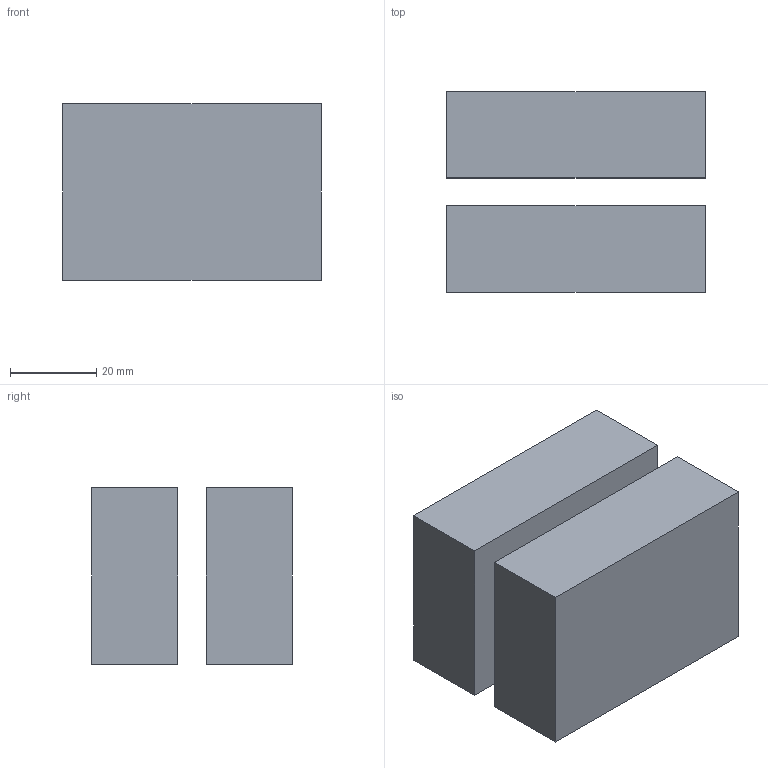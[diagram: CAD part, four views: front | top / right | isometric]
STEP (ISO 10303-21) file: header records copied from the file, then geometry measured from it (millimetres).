
FILE_DESCRIPTION(/* description */ (''),/* implementation_level */ '2;1');
FILE_NAME(/* name */ '9.electronics#9.1#la-stpd',/* time_stamp */ '2014-12-01T20:18:44+01:00',/* author */ (''),/* organization */ (''),/* preprocessor_version */ 'ST-DEVELOPER v14',/* originating_system */ '',/* authorisation */ '');
FILE_SCHEMA (('AUTOMOTIVE_DESIGN'));
Length unit declared in the file: millimetre
Products named in the file (1): Document
Bounding box: 60 x 46.5 x 41 mm (x, y, z)
Volume: 98400 mm3; surface area: 17920 mm2
Topology: 2 solids, 2 shells, 12 faces, 24 edges, 16 vertices
Faces by surface type: plane 12
Entity records: 571 total; most frequent: CARTESIAN_POINT 174, B_SPLINE_CURVE_WITH_KNOTS 72, ORIENTED_EDGE 48, PCURVE 48, DEFINITIONAL_REPRESENTATION 48, SURFACE_CURVE 24, EDGE_CURVE 24, VERTEX_POINT 16
